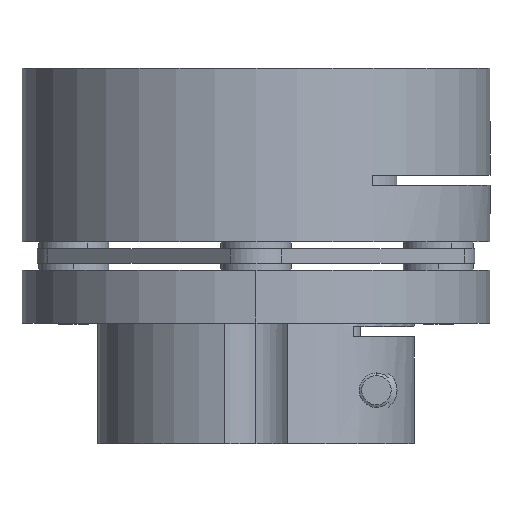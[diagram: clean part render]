
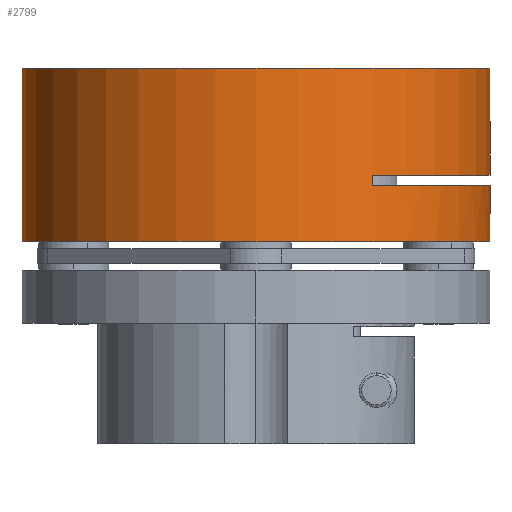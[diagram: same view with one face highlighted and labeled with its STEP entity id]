
A CAD part, front view. The second image highlights one B-rep face of the part: STEP entity #2799.
In plain terms, the highlighted cylindrical face has radius 34 mm (diameter 68 mm), a partial arc.
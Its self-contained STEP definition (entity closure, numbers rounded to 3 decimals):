
#162 = ORIENTED_EDGE ( 'NONE', *, *, #6467, .F. ) ;
#235 = CIRCLE ( 'NONE', #9386, 34. ) ;
#436 = DIRECTION ( 'NONE',  ( 1., 0., 0. ) ) ;
#533 = CARTESIAN_POINT ( 'NONE',  ( -31.595, 33.451, 120.515 ) ) ;
#684 = VERTEX_POINT ( 'NONE', #9261 ) ;
#827 = VECTOR ( 'NONE', #2600, 1000. ) ;
#968 = VERTEX_POINT ( 'NONE', #6963 ) ;
#1463 = ORIENTED_EDGE ( 'NONE', *, *, #8673, .F. ) ;
#1676 = CARTESIAN_POINT ( 'NONE',  ( 2.405, 33.451, 103.515 ) ) ;
#1873 = EDGE_CURVE ( 'NONE', #9314, #3021, #7886, .T. ) ;
#1990 = CARTESIAN_POINT ( 'NONE',  ( 2.405, 33.451, 120.515 ) ) ;
#2563 = VERTEX_POINT ( 'NONE', #533 ) ;
#2600 = DIRECTION ( 'NONE',  ( 0., 0., -1. ) ) ;
#2647 = DIRECTION ( 'NONE',  ( -1., 0., 0. ) ) ;
#2799 = ADVANCED_FACE ( 'NONE', ( #5954 ), #4401, .T. ) ;
#2948 = ORIENTED_EDGE ( 'NONE', *, *, #3661, .F. ) ;
#2958 = DIRECTION ( 'NONE',  ( 1., 0., 0. ) ) ;
#3021 = VERTEX_POINT ( 'NONE', #10357 ) ;
#3063 = CARTESIAN_POINT ( 'NONE',  ( 36.405, 33.451, 120.515 ) ) ;
#3428 = CARTESIAN_POINT ( 'NONE',  ( -31.595, 33.451, 95.315 ) ) ;
#3661 = EDGE_CURVE ( 'NONE', #684, #4039, #7556, .T. ) ;
#3954 = VECTOR ( 'NONE', #8115, 1000. ) ;
#4039 = VERTEX_POINT ( 'NONE', #8770 ) ;
#4208 = CIRCLE ( 'NONE', #5435, 34. ) ;
#4401 = CYLINDRICAL_SURFACE ( 'NONE', #9319, 34. ) ;
#4601 = CARTESIAN_POINT ( 'NONE',  ( 36.405, 33.451, 120.515 ) ) ;
#5031 = EDGE_CURVE ( 'NONE', #7710, #10223, #4208, .T. ) ;
#5435 = AXIS2_PLACEMENT_3D ( 'NONE', #12278, #6340, #436 ) ;
#5607 = DIRECTION ( 'NONE',  ( 0., 0., -1. ) ) ;
#5624 = ORIENTED_EDGE ( 'NONE', *, *, #7774, .F. ) ;
#5775 = ORIENTED_EDGE ( 'NONE', *, *, #10929, .F. ) ;
#5864 = VECTOR ( 'NONE', #11081, 1000. ) ;
#5954 = FACE_OUTER_BOUND ( 'NONE', #6456, .T. ) ;
#5962 = AXIS2_PLACEMENT_3D ( 'NONE', #11556, #5607, #12550 ) ;
#6119 = DIRECTION ( 'NONE',  ( 0., 0., -1. ) ) ;
#6340 = DIRECTION ( 'NONE',  ( 0., 0., 1. ) ) ;
#6456 = EDGE_LOOP ( 'NONE', ( #2948, #1463, #9507, #6470, #162, #7627, #5775, #5624 ) ) ;
#6467 = EDGE_CURVE ( 'NONE', #9314, #10223, #8727, .T. ) ;
#6470 = ORIENTED_EDGE ( 'NONE', *, *, #5031, .T. ) ;
#6598 = LINE ( 'NONE', #11581, #3954 ) ;
#6793 = CARTESIAN_POINT ( 'NONE',  ( 36.405, 33.451, 95.315 ) ) ;
#6963 = CARTESIAN_POINT ( 'NONE',  ( 19.391, 3.998, 105.015 ) ) ;
#7556 = LINE ( 'NONE', #3063, #12846 ) ;
#7627 = ORIENTED_EDGE ( 'NONE', *, *, #1873, .T. ) ;
#7710 = VERTEX_POINT ( 'NONE', #3428 ) ;
#7774 = EDGE_CURVE ( 'NONE', #4039, #968, #12321, .T. ) ;
#7886 = CIRCLE ( 'NONE', #12199, 34. ) ;
#8115 = DIRECTION ( 'NONE',  ( 0., 0., -1. ) ) ;
#8510 = LINE ( 'NONE', #10079, #5864 ) ;
#8601 = DIRECTION ( 'NONE',  ( 0., 0., -1. ) ) ;
#8673 = EDGE_CURVE ( 'NONE', #2563, #684, #235, .T. ) ;
#8727 = LINE ( 'NONE', #4601, #827 ) ;
#8770 = CARTESIAN_POINT ( 'NONE',  ( 36.405, 33.451, 105.015 ) ) ;
#8928 = DIRECTION ( 'NONE',  ( 0., 0., 1. ) ) ;
#9261 = CARTESIAN_POINT ( 'NONE',  ( 36.405, 33.451, 120.515 ) ) ;
#9314 = VERTEX_POINT ( 'NONE', #11891 ) ;
#9319 = AXIS2_PLACEMENT_3D ( 'NONE', #10081, #6119, #10131 ) ;
#9386 = AXIS2_PLACEMENT_3D ( 'NONE', #1990, #8928, #2958 ) ;
#9507 = ORIENTED_EDGE ( 'NONE', *, *, #10404, .T. ) ;
#10018 = DIRECTION ( 'NONE',  ( 0., 0., -1. ) ) ;
#10079 = CARTESIAN_POINT ( 'NONE',  ( -31.595, 33.451, 120.515 ) ) ;
#10081 = CARTESIAN_POINT ( 'NONE',  ( 2.405, 33.451, 120.515 ) ) ;
#10131 = DIRECTION ( 'NONE',  ( -1., 0., 0. ) ) ;
#10223 = VERTEX_POINT ( 'NONE', #6793 ) ;
#10357 = CARTESIAN_POINT ( 'NONE',  ( 19.391, 3.998, 103.515 ) ) ;
#10404 = EDGE_CURVE ( 'NONE', #2563, #7710, #8510, .T. ) ;
#10929 = EDGE_CURVE ( 'NONE', #968, #3021, #6598, .T. ) ;
#11081 = DIRECTION ( 'NONE',  ( 0., 0., -1. ) ) ;
#11556 = CARTESIAN_POINT ( 'NONE',  ( 2.405, 33.451, 105.015 ) ) ;
#11581 = CARTESIAN_POINT ( 'NONE',  ( 19.391, 3.998, 105.015 ) ) ;
#11891 = CARTESIAN_POINT ( 'NONE',  ( 36.405, 33.451, 103.515 ) ) ;
#12199 = AXIS2_PLACEMENT_3D ( 'NONE', #1676, #8601, #2647 ) ;
#12278 = CARTESIAN_POINT ( 'NONE',  ( 2.405, 33.451, 95.315 ) ) ;
#12321 = CIRCLE ( 'NONE', #5962, 34. ) ;
#12550 = DIRECTION ( 'NONE',  ( -1., 0., 0. ) ) ;
#12846 = VECTOR ( 'NONE', #10018, 1000. ) ;
